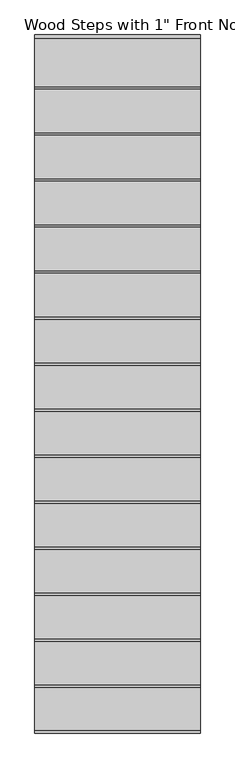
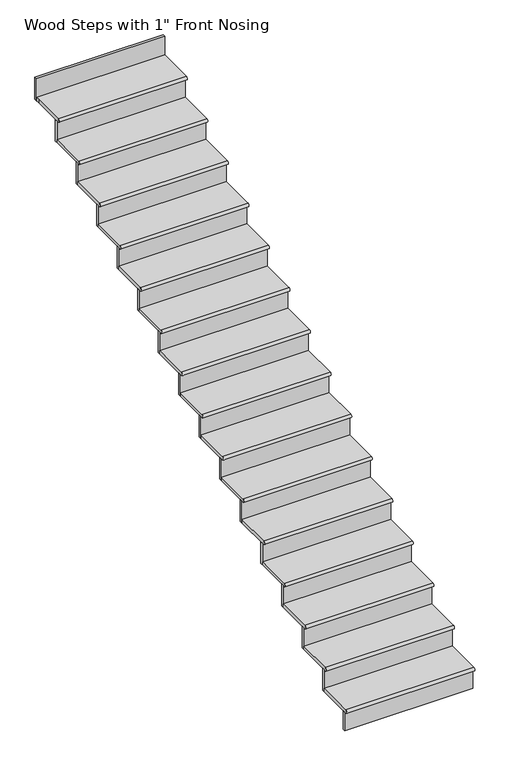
"""IFC4 building model written with IfcOpenShell, lengths in millimetres: stair flight geometry."""

from ifc_helpers import new_model, si_unit, frame, origin, place, context, project, spatial, circle_curve, faceted_brep, source, transform, mapped, element, save
from ifc_brep_helpers import plane_surface, cylinder_surface, advanced_brep


def stair_flight_320c33c6(model_context):
    return source(origin(), model_context, "Body", "SolidModel", [
        advanced_brep(
        [(-10208.7379486, -5487.6289462, -2648.346875), (-10208.7379486, -5487.6289462, -2622.946875), (-11123.1379486, -5487.6289462, -2622.946875), (-11123.1379486, -5487.6289462, -2648.346875), (-11123.1379486, -5220.9289462, -2622.946875), (-10208.7379486, -5220.9289462, -2622.946875), (-11123.1379486, -5220.9289462, -2648.346875), (-10208.7379486, -5220.9289462, -2648.346875)],
        [
            (0, 1, circle_curve(frame((-10208.7379486, -5487.6289462, -2635.646875), z_axis=(-1.0, 0.0, 0.0), x_axis=(0.0, 1.0, 0.0)), 12.7)),
            (1, 2),
            (2, 3, circle_curve(frame((-11123.1379486, -5487.6289462, -2635.646875), z_axis=(1.0, 0.0, 0.0), x_axis=(0.0, 1.0, 0.0)), 12.7)),
            (3, 0),
            (4, 2),
            (1, 5),
            (5, 4),
            (3, 6),
            (6, 7),
            (7, 0),
            (4, 6),
            (7, 5),
        ],
        [
            cylinder_surface(frame((-10208.7379486, -5487.6289462, -2635.646875), z_axis=(1.0, 0.0, 0.0), x_axis=(0.0, 1.0, 0.0)), 12.7),
            plane_surface(frame((-11123.1379486, -5500.3289462, -2622.946875), z_axis=(0.0, 0.0, 1.0), x_axis=(0.0, -1.0, 0.0))),
            plane_surface(frame((-11123.1379486, -5500.3289462, -2648.346875), z_axis=(0.0, 0.0, -1.0), x_axis=(0.0, 1.0, 0.0))),
            plane_surface(frame((-11123.1379486, -5220.9289462, -2622.946875), z_axis=(-1.0, 0.0, 0.0), x_axis=(0.0, 0.0, -1.0))),
            plane_surface(frame((-10208.7379486, -5487.6289462, -2622.946875), z_axis=(1.0, 0.0, 0.0), x_axis=(0.0, 0.0, -1.0))),
            plane_surface(frame((-10208.7379486, -5220.9289462, -2622.946875), z_axis=(0.0, 1.0, 0.0), x_axis=(0.0, 0.0, -1.0))),
        ],
        [
            (0, [[1, 2, 3, 4]]),
            (1, [[5, -2, 6, 7]]),
            (2, [[8, 9, 10, -4]]),
            (3, [[-5, 11, -8, -3]]),
            (4, [[-6, -1, -10, 12]]),
            (5, [[-7, -12, -9, -11]]),
        ],
    ),
        faceted_brep([(-10208.7379486, -5474.9289462, -2648.346875), (-10208.7379486, -5474.9289462, -2787.65), (-10208.7379486, -5455.8789462, -2787.65), (-10208.7379486, -5455.8789462, -2648.346875), (-11123.1379486, -5474.9289462, -2648.346875), (-11123.1379486, -5455.8789462, -2648.346875), (-11123.1379486, -5455.8789462, -2787.65), (-11123.1379486, -5474.9289462, -2787.65)], [[[0, 1, 2, 3]], [[4, 5, 6, 7]], [[1, 0, 4, 7]], [[2, 1, 7, 6]], [[3, 2, 6, 5]], [[0, 3, 5, 4]]]),
        faceted_brep([(-10208.7379486, -5220.9289462, -2483.64375), (-10208.7379486, -5220.9289462, -2648.346875), (-10208.7379486, -5201.8789462, -2648.346875), (-10208.7379486, -5201.8789462, -2483.64375), (-11123.1379486, -5220.9289462, -2483.64375), (-11123.1379486, -5201.8789462, -2483.64375), (-11123.1379486, -5201.8789462, -2648.346875), (-11123.1379486, -5220.9289462, -2648.346875)], [[[0, 1, 2, 3]], [[4, 5, 6, 7]], [[1, 0, 4, 7]], [[2, 1, 7, 6]], [[3, 2, 6, 5]], [[0, 3, 5, 4]]]),
        advanced_brep(
        [(-11123.1379486, -4966.9289462, -2458.24375), (-11123.1379486, -5233.6289462, -2458.24375), (-10208.7379486, -5233.6289462, -2458.24375), (-10208.7379486, -4966.9289462, -2458.24375), (-11123.1379486, -5233.6289462, -2483.64375), (-11123.1379486, -4966.9289462, -2483.64375), (-10208.7379486, -4966.9289462, -2483.64375), (-10208.7379486, -5233.6289462, -2483.64375)],
        [
            (0, 1),
            (1, 2),
            (2, 3),
            (3, 0),
            (4, 5),
            (5, 6),
            (6, 7),
            (7, 4),
            (0, 5),
            (4, 1, circle_curve(frame((-11123.1379486, -5233.6289462, -2470.94375), z_axis=(-1.0, 0.0, 0.0), x_axis=(0.0, 1.0, 0.0)), 12.7)),
            (2, 7, circle_curve(frame((-10208.7379486, -5233.6289462, -2470.94375), z_axis=(1.0, 0.0, 0.0), x_axis=(0.0, 1.0, 0.0)), 12.7)),
            (6, 3),
        ],
        [
            plane_surface(frame((-11123.1379486, -5500.3289462, -2458.24375), z_axis=(0.0, 0.0, 1.0), x_axis=(0.0, -1.0, 0.0))),
            plane_surface(frame((-11123.1379486, -5500.3289462, -2483.64375), z_axis=(0.0, 0.0, -1.0), x_axis=(0.0, 1.0, 0.0))),
            plane_surface(frame((-11123.1379486, -4966.9289462, -2458.24375), z_axis=(-1.0, 0.0, 0.0), x_axis=(0.0, 0.0, -1.0))),
            plane_surface(frame((-10208.7379486, -5233.6289462, -2458.24375), z_axis=(1.0, 0.0, 0.0), x_axis=(0.0, 0.0, -1.0))),
            plane_surface(frame((-10208.7379486, -4966.9289462, -2458.24375), z_axis=(0.0, 1.0, 0.0), x_axis=(0.0, 0.0, -1.0))),
            cylinder_surface(frame((-10208.7379486, -5233.6289462, -2470.94375), z_axis=(1.0, 0.0, 0.0), x_axis=(0.0, 1.0, 0.0)), 12.7),
        ],
        [
            (0, [[1, 2, 3, 4]]),
            (1, [[5, 6, 7, 8]]),
            (2, [[-1, 9, -5, 10]]),
            (3, [[-3, 11, -7, 12]]),
            (4, [[-4, -12, -6, -9]]),
            (5, [[-11, -2, -10, -8]]),
        ],
    ),
        faceted_brep([(-10208.7379486, -4966.9289462, -2318.940625), (-10208.7379486, -4966.9289462, -2483.64375), (-10208.7379486, -4947.8789462, -2483.64375), (-10208.7379486, -4947.8789462, -2318.940625), (-11123.1379486, -4966.9289462, -2318.940625), (-11123.1379486, -4947.8789462, -2318.940625), (-11123.1379486, -4947.8789462, -2483.64375), (-11123.1379486, -4966.9289462, -2483.64375)], [[[0, 1, 2, 3]], [[4, 5, 6, 7]], [[1, 0, 4, 7]], [[2, 1, 7, 6]], [[3, 2, 6, 5]], [[0, 3, 5, 4]]]),
        advanced_brep(
        [(-11123.1379486, -4712.9289462, -2293.540625), (-11123.1379486, -4979.6289462, -2293.540625), (-10208.7379486, -4979.6289462, -2293.540625), (-10208.7379486, -4712.9289462, -2293.540625), (-11123.1379486, -4979.6289462, -2318.940625), (-11123.1379486, -4712.9289462, -2318.940625), (-10208.7379486, -4712.9289462, -2318.940625), (-10208.7379486, -4979.6289462, -2318.940625)],
        [
            (0, 1),
            (1, 2),
            (2, 3),
            (3, 0),
            (4, 5),
            (5, 6),
            (6, 7),
            (7, 4),
            (0, 5),
            (4, 1, circle_curve(frame((-11123.1379486, -4979.6289462, -2306.240625), z_axis=(-1.0, 0.0, 0.0), x_axis=(0.0, 1.0, 0.0)), 12.7)),
            (2, 7, circle_curve(frame((-10208.7379486, -4979.6289462, -2306.240625), z_axis=(1.0, 0.0, 0.0), x_axis=(0.0, 1.0, 0.0)), 12.7)),
            (6, 3),
        ],
        [
            plane_surface(frame((-11123.1379486, -5246.3289462, -2293.540625), z_axis=(0.0, 0.0, 1.0), x_axis=(0.0, -1.0, 0.0))),
            plane_surface(frame((-11123.1379486, -5246.3289462, -2318.940625), z_axis=(0.0, 0.0, -1.0), x_axis=(0.0, 1.0, 0.0))),
            plane_surface(frame((-11123.1379486, -4712.9289462, -2293.540625), z_axis=(-1.0, 0.0, 0.0), x_axis=(0.0, 0.0, -1.0))),
            plane_surface(frame((-10208.7379486, -4979.6289462, -2293.540625), z_axis=(1.0, 0.0, 0.0), x_axis=(0.0, 0.0, -1.0))),
            plane_surface(frame((-10208.7379486, -4712.9289462, -2293.540625), z_axis=(0.0, 1.0, 0.0), x_axis=(0.0, 0.0, -1.0))),
            cylinder_surface(frame((-10208.7379486, -4979.6289462, -2306.240625), z_axis=(1.0, 0.0, 0.0), x_axis=(0.0, 1.0, 0.0)), 12.7),
        ],
        [
            (0, [[1, 2, 3, 4]]),
            (1, [[5, 6, 7, 8]]),
            (2, [[-1, 9, -5, 10]]),
            (3, [[-3, 11, -7, 12]]),
            (4, [[-4, -12, -6, -9]]),
            (5, [[-11, -2, -10, -8]]),
        ],
    ),
        faceted_brep([(-10208.7379486, -4712.9289462, -2154.2375), (-10208.7379486, -4712.9289462, -2318.940625), (-10208.7379486, -4693.8789462, -2318.940625), (-10208.7379486, -4693.8789462, -2154.2375), (-11123.1379486, -4712.9289462, -2154.2375), (-11123.1379486, -4693.8789462, -2154.2375), (-11123.1379486, -4693.8789462, -2318.940625), (-11123.1379486, -4712.9289462, -2318.940625)], [[[0, 1, 2, 3]], [[4, 5, 6, 7]], [[1, 0, 4, 7]], [[2, 1, 7, 6]], [[3, 2, 6, 5]], [[0, 3, 5, 4]]]),
        advanced_brep(
        [(-11123.1379486, -4458.9289462, -2128.8375), (-11123.1379486, -4725.6289462, -2128.8375), (-10208.7379486, -4725.6289462, -2128.8375), (-10208.7379486, -4458.9289462, -2128.8375), (-11123.1379486, -4725.6289462, -2154.2375), (-11123.1379486, -4458.9289462, -2154.2375), (-10208.7379486, -4458.9289462, -2154.2375), (-10208.7379486, -4725.6289462, -2154.2375)],
        [
            (0, 1),
            (1, 2),
            (2, 3),
            (3, 0),
            (4, 5),
            (5, 6),
            (6, 7),
            (7, 4),
            (0, 5),
            (4, 1, circle_curve(frame((-11123.1379486, -4725.6289462, -2141.5375), z_axis=(-1.0, 0.0, 0.0), x_axis=(0.0, 1.0, 0.0)), 12.7)),
            (2, 7, circle_curve(frame((-10208.7379486, -4725.6289462, -2141.5375), z_axis=(1.0, 0.0, 0.0), x_axis=(0.0, 1.0, 0.0)), 12.7)),
            (6, 3),
        ],
        [
            plane_surface(frame((-11123.1379486, -4992.3289462, -2128.8375), z_axis=(0.0, 0.0, 1.0), x_axis=(0.0, -1.0, 0.0))),
            plane_surface(frame((-11123.1379486, -4992.3289462, -2154.2375), z_axis=(0.0, 0.0, -1.0), x_axis=(0.0, 1.0, 0.0))),
            plane_surface(frame((-11123.1379486, -4458.9289462, -2128.8375), z_axis=(-1.0, 0.0, 0.0), x_axis=(0.0, 0.0, -1.0))),
            plane_surface(frame((-10208.7379486, -4725.6289462, -2128.8375), z_axis=(1.0, 0.0, 0.0), x_axis=(0.0, 0.0, -1.0))),
            plane_surface(frame((-10208.7379486, -4458.9289462, -2128.8375), z_axis=(0.0, 1.0, 0.0), x_axis=(0.0, 0.0, -1.0))),
            cylinder_surface(frame((-10208.7379486, -4725.6289462, -2141.5375), z_axis=(1.0, 0.0, 0.0), x_axis=(0.0, 1.0, 0.0)), 12.7),
        ],
        [
            (0, [[1, 2, 3, 4]]),
            (1, [[5, 6, 7, 8]]),
            (2, [[-1, 9, -5, 10]]),
            (3, [[-3, 11, -7, 12]]),
            (4, [[-4, -12, -6, -9]]),
            (5, [[-11, -2, -10, -8]]),
        ],
    ),
        faceted_brep([(-10208.7379486, -4458.9289462, -1989.534375), (-10208.7379486, -4458.9289462, -2154.2375), (-10208.7379486, -4439.8789462, -2154.2375), (-10208.7379486, -4439.8789462, -1989.534375), (-11123.1379486, -4458.9289462, -1989.534375), (-11123.1379486, -4439.8789462, -1989.534375), (-11123.1379486, -4439.8789462, -2154.2375), (-11123.1379486, -4458.9289462, -2154.2375)], [[[0, 1, 2, 3]], [[4, 5, 6, 7]], [[1, 0, 4, 7]], [[2, 1, 7, 6]], [[3, 2, 6, 5]], [[0, 3, 5, 4]]]),
        advanced_brep(
        [(-11123.1379486, -4204.9289462, -1964.134375), (-11123.1379486, -4471.6289462, -1964.134375), (-10208.7379486, -4471.6289462, -1964.134375), (-10208.7379486, -4204.9289462, -1964.134375), (-11123.1379486, -4471.6289462, -1989.534375), (-11123.1379486, -4204.9289462, -1989.534375), (-10208.7379486, -4204.9289462, -1989.534375), (-10208.7379486, -4471.6289462, -1989.534375)],
        [
            (0, 1),
            (1, 2),
            (2, 3),
            (3, 0),
            (4, 5),
            (5, 6),
            (6, 7),
            (7, 4),
            (0, 5),
            (4, 1, circle_curve(frame((-11123.1379486, -4471.6289462, -1976.834375), z_axis=(-1.0, 0.0, 0.0), x_axis=(0.0, 1.0, 0.0)), 12.7)),
            (2, 7, circle_curve(frame((-10208.7379486, -4471.6289462, -1976.834375), z_axis=(1.0, 0.0, 0.0), x_axis=(0.0, 1.0, 0.0)), 12.7)),
            (6, 3),
        ],
        [
            plane_surface(frame((-11123.1379486, -4738.3289462, -1964.134375), z_axis=(0.0, 0.0, 1.0), x_axis=(0.0, -1.0, 0.0))),
            plane_surface(frame((-11123.1379486, -4738.3289462, -1989.534375), z_axis=(0.0, 0.0, -1.0), x_axis=(0.0, 1.0, 0.0))),
            plane_surface(frame((-11123.1379486, -4204.9289462, -1964.134375), z_axis=(-1.0, 0.0, 0.0), x_axis=(0.0, 0.0, -1.0))),
            plane_surface(frame((-10208.7379486, -4471.6289462, -1964.134375), z_axis=(1.0, 0.0, 0.0), x_axis=(0.0, 0.0, -1.0))),
            plane_surface(frame((-10208.7379486, -4204.9289462, -1964.134375), z_axis=(0.0, 1.0, 0.0), x_axis=(0.0, 0.0, -1.0))),
            cylinder_surface(frame((-10208.7379486, -4471.6289462, -1976.834375), z_axis=(1.0, 0.0, 0.0), x_axis=(0.0, 1.0, 0.0)), 12.7),
        ],
        [
            (0, [[1, 2, 3, 4]]),
            (1, [[5, 6, 7, 8]]),
            (2, [[-1, 9, -5, 10]]),
            (3, [[-3, 11, -7, 12]]),
            (4, [[-4, -12, -6, -9]]),
            (5, [[-11, -2, -10, -8]]),
        ],
    ),
        faceted_brep([(-10208.7379486, -4204.9289462, -1824.83125), (-10208.7379486, -4204.9289462, -1989.534375), (-10208.7379486, -4185.8789462, -1989.534375), (-10208.7379486, -4185.8789462, -1824.83125), (-11123.1379486, -4204.9289462, -1824.83125), (-11123.1379486, -4185.8789462, -1824.83125), (-11123.1379486, -4185.8789462, -1989.534375), (-11123.1379486, -4204.9289462, -1989.534375)], [[[0, 1, 2, 3]], [[4, 5, 6, 7]], [[1, 0, 4, 7]], [[2, 1, 7, 6]], [[3, 2, 6, 5]], [[0, 3, 5, 4]]]),
        advanced_brep(
        [(-11123.1379486, -3950.9289462, -1799.43125), (-11123.1379486, -4217.6289462, -1799.43125), (-10208.7379486, -4217.6289462, -1799.43125), (-10208.7379486, -3950.9289462, -1799.43125), (-11123.1379486, -4217.6289462, -1824.83125), (-11123.1379486, -3950.9289462, -1824.83125), (-10208.7379486, -3950.9289462, -1824.83125), (-10208.7379486, -4217.6289462, -1824.83125)],
        [
            (0, 1),
            (1, 2),
            (2, 3),
            (3, 0),
            (4, 5),
            (5, 6),
            (6, 7),
            (7, 4),
            (0, 5),
            (4, 1, circle_curve(frame((-11123.1379486, -4217.6289462, -1812.13125), z_axis=(-1.0, 0.0, 0.0), x_axis=(0.0, 1.0, 0.0)), 12.7)),
            (2, 7, circle_curve(frame((-10208.7379486, -4217.6289462, -1812.13125), z_axis=(1.0, 0.0, 0.0), x_axis=(0.0, 1.0, 0.0)), 12.7)),
            (6, 3),
        ],
        [
            plane_surface(frame((-11123.1379486, -4484.3289462, -1799.43125), z_axis=(0.0, 0.0, 1.0), x_axis=(0.0, -1.0, 0.0))),
            plane_surface(frame((-11123.1379486, -4484.3289462, -1824.83125), z_axis=(0.0, 0.0, -1.0), x_axis=(0.0, 1.0, 0.0))),
            plane_surface(frame((-11123.1379486, -3950.9289462, -1799.43125), z_axis=(-1.0, 0.0, 0.0), x_axis=(0.0, 0.0, -1.0))),
            plane_surface(frame((-10208.7379486, -4217.6289462, -1799.43125), z_axis=(1.0, 0.0, 0.0), x_axis=(0.0, 0.0, -1.0))),
            plane_surface(frame((-10208.7379486, -3950.9289462, -1799.43125), z_axis=(0.0, 1.0, 0.0), x_axis=(0.0, 0.0, -1.0))),
            cylinder_surface(frame((-10208.7379486, -4217.6289462, -1812.13125), z_axis=(1.0, 0.0, 0.0), x_axis=(0.0, 1.0, 0.0)), 12.7),
        ],
        [
            (0, [[1, 2, 3, 4]]),
            (1, [[5, 6, 7, 8]]),
            (2, [[-1, 9, -5, 10]]),
            (3, [[-3, 11, -7, 12]]),
            (4, [[-4, -12, -6, -9]]),
            (5, [[-11, -2, -10, -8]]),
        ],
    ),
        faceted_brep([(-10208.7379486, -3950.9289462, -1660.128125), (-10208.7379486, -3950.9289462, -1824.83125), (-10208.7379486, -3931.8789462, -1824.83125), (-10208.7379486, -3931.8789462, -1660.128125), (-11123.1379486, -3950.9289462, -1660.128125), (-11123.1379486, -3931.8789462, -1660.128125), (-11123.1379486, -3931.8789462, -1824.83125), (-11123.1379486, -3950.9289462, -1824.83125)], [[[0, 1, 2, 3]], [[4, 5, 6, 7]], [[1, 0, 4, 7]], [[2, 1, 7, 6]], [[3, 2, 6, 5]], [[0, 3, 5, 4]]]),
        advanced_brep(
        [(-11123.1379486, -3696.9289462, -1634.728125), (-11123.1379486, -3963.6289462, -1634.728125), (-10208.7379486, -3963.6289462, -1634.728125), (-10208.7379486, -3696.9289462, -1634.728125), (-11123.1379486, -3963.6289462, -1660.128125), (-11123.1379486, -3696.9289462, -1660.128125), (-10208.7379486, -3696.9289462, -1660.128125), (-10208.7379486, -3963.6289462, -1660.128125)],
        [
            (0, 1),
            (1, 2),
            (2, 3),
            (3, 0),
            (4, 5),
            (5, 6),
            (6, 7),
            (7, 4),
            (0, 5),
            (4, 1, circle_curve(frame((-11123.1379486, -3963.6289462, -1647.428125), z_axis=(-1.0, 0.0, 0.0), x_axis=(0.0, 1.0, 0.0)), 12.7)),
            (2, 7, circle_curve(frame((-10208.7379486, -3963.6289462, -1647.428125), z_axis=(1.0, 0.0, 0.0), x_axis=(0.0, 1.0, 0.0)), 12.7)),
            (6, 3),
        ],
        [
            plane_surface(frame((-11123.1379486, -4230.3289462, -1634.728125), z_axis=(0.0, 0.0, 1.0), x_axis=(0.0, -1.0, 0.0))),
            plane_surface(frame((-11123.1379486, -4230.3289462, -1660.128125), z_axis=(0.0, 0.0, -1.0), x_axis=(0.0, 1.0, 0.0))),
            plane_surface(frame((-11123.1379486, -3696.9289462, -1634.728125), z_axis=(-1.0, 0.0, 0.0), x_axis=(0.0, 0.0, -1.0))),
            plane_surface(frame((-10208.7379486, -3963.6289462, -1634.728125), z_axis=(1.0, 0.0, 0.0), x_axis=(0.0, 0.0, -1.0))),
            plane_surface(frame((-10208.7379486, -3696.9289462, -1634.728125), z_axis=(0.0, 1.0, 0.0), x_axis=(0.0, 0.0, -1.0))),
            cylinder_surface(frame((-10208.7379486, -3963.6289462, -1647.428125), z_axis=(1.0, 0.0, 0.0), x_axis=(0.0, 1.0, 0.0)), 12.7),
        ],
        [
            (0, [[1, 2, 3, 4]]),
            (1, [[5, 6, 7, 8]]),
            (2, [[-1, 9, -5, 10]]),
            (3, [[-3, 11, -7, 12]]),
            (4, [[-4, -12, -6, -9]]),
            (5, [[-11, -2, -10, -8]]),
        ],
    ),
        faceted_brep([(-10208.7379486, -3696.9289462, -1495.425), (-10208.7379486, -3696.9289462, -1660.128125), (-10208.7379486, -3677.8789462, -1660.128125), (-10208.7379486, -3677.8789462, -1495.425), (-11123.1379486, -3696.9289462, -1495.425), (-11123.1379486, -3677.8789462, -1495.425), (-11123.1379486, -3677.8789462, -1660.128125), (-11123.1379486, -3696.9289462, -1660.128125)], [[[0, 1, 2, 3]], [[4, 5, 6, 7]], [[1, 0, 4, 7]], [[2, 1, 7, 6]], [[3, 2, 6, 5]], [[0, 3, 5, 4]]]),
        advanced_brep(
        [(-11123.1379486, -3442.9289462, -1470.025), (-11123.1379486, -3709.6289462, -1470.025), (-10208.7379486, -3709.6289462, -1470.025), (-10208.7379486, -3442.9289462, -1470.025), (-11123.1379486, -3709.6289462, -1495.425), (-11123.1379486, -3442.9289462, -1495.425), (-10208.7379486, -3442.9289462, -1495.425), (-10208.7379486, -3709.6289462, -1495.425)],
        [
            (0, 1),
            (1, 2),
            (2, 3),
            (3, 0),
            (4, 5),
            (5, 6),
            (6, 7),
            (7, 4),
            (0, 5),
            (4, 1, circle_curve(frame((-11123.1379486, -3709.6289462, -1482.725), z_axis=(-1.0, 0.0, 0.0), x_axis=(0.0, 1.0, 0.0)), 12.7)),
            (2, 7, circle_curve(frame((-10208.7379486, -3709.6289462, -1482.725), z_axis=(1.0, 0.0, 0.0), x_axis=(0.0, 1.0, 0.0)), 12.7)),
            (6, 3),
        ],
        [
            plane_surface(frame((-11123.1379486, -3976.3289462, -1470.025), z_axis=(0.0, 0.0, 1.0), x_axis=(0.0, -1.0, 0.0))),
            plane_surface(frame((-11123.1379486, -3976.3289462, -1495.425), z_axis=(0.0, 0.0, -1.0), x_axis=(0.0, 1.0, 0.0))),
            plane_surface(frame((-11123.1379486, -3442.9289462, -1470.025), z_axis=(-1.0, 0.0, 0.0), x_axis=(0.0, 0.0, -1.0))),
            plane_surface(frame((-10208.7379486, -3709.6289462, -1470.025), z_axis=(1.0, 0.0, 0.0), x_axis=(0.0, 0.0, -1.0))),
            plane_surface(frame((-10208.7379486, -3442.9289462, -1470.025), z_axis=(0.0, 1.0, 0.0), x_axis=(0.0, 0.0, -1.0))),
            cylinder_surface(frame((-10208.7379486, -3709.6289462, -1482.725), z_axis=(1.0, 0.0, 0.0), x_axis=(0.0, 1.0, 0.0)), 12.7),
        ],
        [
            (0, [[1, 2, 3, 4]]),
            (1, [[5, 6, 7, 8]]),
            (2, [[-1, 9, -5, 10]]),
            (3, [[-3, 11, -7, 12]]),
            (4, [[-4, -12, -6, -9]]),
            (5, [[-11, -2, -10, -8]]),
        ],
    ),
        faceted_brep([(-10208.7379486, -3442.9289462, -1330.721875), (-10208.7379486, -3442.9289462, -1495.425), (-10208.7379486, -3423.8789462, -1495.425), (-10208.7379486, -3423.8789462, -1330.721875), (-11123.1379486, -3442.9289462, -1330.721875), (-11123.1379486, -3423.8789462, -1330.721875), (-11123.1379486, -3423.8789462, -1495.425), (-11123.1379486, -3442.9289462, -1495.425)], [[[0, 1, 2, 3]], [[4, 5, 6, 7]], [[1, 0, 4, 7]], [[2, 1, 7, 6]], [[3, 2, 6, 5]], [[0, 3, 5, 4]]]),
        advanced_brep(
        [(-11123.1379486, -3188.9289462, -1305.321875), (-11123.1379486, -3455.6289462, -1305.321875), (-10208.7379486, -3455.6289462, -1305.321875), (-10208.7379486, -3188.9289462, -1305.321875), (-11123.1379486, -3455.6289462, -1330.721875), (-11123.1379486, -3188.9289462, -1330.721875), (-10208.7379486, -3188.9289462, -1330.721875), (-10208.7379486, -3455.6289462, -1330.721875)],
        [
            (0, 1),
            (1, 2),
            (2, 3),
            (3, 0),
            (4, 5),
            (5, 6),
            (6, 7),
            (7, 4),
            (0, 5),
            (4, 1, circle_curve(frame((-11123.1379486, -3455.6289462, -1318.021875), z_axis=(-1.0, 0.0, 0.0), x_axis=(0.0, 1.0, 0.0)), 12.7)),
            (2, 7, circle_curve(frame((-10208.7379486, -3455.6289462, -1318.021875), z_axis=(1.0, 0.0, 0.0), x_axis=(0.0, 1.0, 0.0)), 12.7)),
            (6, 3),
        ],
        [
            plane_surface(frame((-11123.1379486, -3722.3289462, -1305.321875), z_axis=(0.0, 0.0, 1.0), x_axis=(0.0, -1.0, 0.0))),
            plane_surface(frame((-11123.1379486, -3722.3289462, -1330.721875), z_axis=(0.0, 0.0, -1.0), x_axis=(0.0, 1.0, 0.0))),
            plane_surface(frame((-11123.1379486, -3188.9289462, -1305.321875), z_axis=(-1.0, 0.0, 0.0), x_axis=(0.0, 0.0, -1.0))),
            plane_surface(frame((-10208.7379486, -3455.6289462, -1305.321875), z_axis=(1.0, 0.0, 0.0), x_axis=(0.0, 0.0, -1.0))),
            plane_surface(frame((-10208.7379486, -3188.9289462, -1305.321875), z_axis=(0.0, 1.0, 0.0), x_axis=(0.0, 0.0, -1.0))),
            cylinder_surface(frame((-10208.7379486, -3455.6289462, -1318.021875), z_axis=(1.0, 0.0, 0.0), x_axis=(0.0, 1.0, 0.0)), 12.7),
        ],
        [
            (0, [[1, 2, 3, 4]]),
            (1, [[5, 6, 7, 8]]),
            (2, [[-1, 9, -5, 10]]),
            (3, [[-3, 11, -7, 12]]),
            (4, [[-4, -12, -6, -9]]),
            (5, [[-11, -2, -10, -8]]),
        ],
    ),
        faceted_brep([(-10208.7379486, -3188.9289462, -1166.01875), (-10208.7379486, -3188.9289462, -1330.721875), (-10208.7379486, -3169.8789462, -1330.721875), (-10208.7379486, -3169.8789462, -1166.01875), (-11123.1379486, -3188.9289462, -1166.01875), (-11123.1379486, -3169.8789462, -1166.01875), (-11123.1379486, -3169.8789462, -1330.721875), (-11123.1379486, -3188.9289462, -1330.721875)], [[[0, 1, 2, 3]], [[4, 5, 6, 7]], [[1, 0, 4, 7]], [[2, 1, 7, 6]], [[3, 2, 6, 5]], [[0, 3, 5, 4]]]),
        advanced_brep(
        [(-11123.1379486, -2934.9289462, -1140.61875), (-11123.1379486, -3201.6289462, -1140.61875), (-10208.7379486, -3201.6289462, -1140.61875), (-10208.7379486, -2934.9289462, -1140.61875), (-11123.1379486, -3201.6289462, -1166.01875), (-11123.1379486, -2934.9289462, -1166.01875), (-10208.7379486, -2934.9289462, -1166.01875), (-10208.7379486, -3201.6289462, -1166.01875)],
        [
            (0, 1),
            (1, 2),
            (2, 3),
            (3, 0),
            (4, 5),
            (5, 6),
            (6, 7),
            (7, 4),
            (0, 5),
            (4, 1, circle_curve(frame((-11123.1379486, -3201.6289462, -1153.31875), z_axis=(-1.0, 0.0, 0.0), x_axis=(0.0, 1.0, 0.0)), 12.7)),
            (2, 7, circle_curve(frame((-10208.7379486, -3201.6289462, -1153.31875), z_axis=(1.0, 0.0, 0.0), x_axis=(0.0, 1.0, 0.0)), 12.7)),
            (6, 3),
        ],
        [
            plane_surface(frame((-11123.1379486, -3468.3289462, -1140.61875), z_axis=(0.0, 0.0, 1.0), x_axis=(0.0, -1.0, 0.0))),
            plane_surface(frame((-11123.1379486, -3468.3289462, -1166.01875), z_axis=(0.0, 0.0, -1.0), x_axis=(0.0, 1.0, 0.0))),
            plane_surface(frame((-11123.1379486, -2934.9289462, -1140.61875), z_axis=(-1.0, 0.0, 0.0), x_axis=(0.0, 0.0, -1.0))),
            plane_surface(frame((-10208.7379486, -3201.6289462, -1140.61875), z_axis=(1.0, 0.0, 0.0), x_axis=(0.0, 0.0, -1.0))),
            plane_surface(frame((-10208.7379486, -2934.9289462, -1140.61875), z_axis=(0.0, 1.0, 0.0), x_axis=(0.0, 0.0, -1.0))),
            cylinder_surface(frame((-10208.7379486, -3201.6289462, -1153.31875), z_axis=(1.0, 0.0, 0.0), x_axis=(0.0, 1.0, 0.0)), 12.7),
        ],
        [
            (0, [[1, 2, 3, 4]]),
            (1, [[5, 6, 7, 8]]),
            (2, [[-1, 9, -5, 10]]),
            (3, [[-3, 11, -7, 12]]),
            (4, [[-4, -12, -6, -9]]),
            (5, [[-11, -2, -10, -8]]),
        ],
    ),
        faceted_brep([(-10208.7379486, -2934.9289462, -1001.315625), (-10208.7379486, -2934.9289462, -1166.01875), (-10208.7379486, -2915.8789462, -1166.01875), (-10208.7379486, -2915.8789462, -1001.315625), (-11123.1379486, -2934.9289462, -1001.315625), (-11123.1379486, -2915.8789462, -1001.315625), (-11123.1379486, -2915.8789462, -1166.01875), (-11123.1379486, -2934.9289462, -1166.01875)], [[[0, 1, 2, 3]], [[4, 5, 6, 7]], [[1, 0, 4, 7]], [[2, 1, 7, 6]], [[3, 2, 6, 5]], [[0, 3, 5, 4]]]),
        advanced_brep(
        [(-11123.1379486, -2680.9289462, -975.915625), (-11123.1379486, -2947.6289462, -975.915625), (-10208.7379486, -2947.6289462, -975.915625), (-10208.7379486, -2680.9289462, -975.915625), (-11123.1379486, -2947.6289462, -1001.315625), (-11123.1379486, -2680.9289462, -1001.315625), (-10208.7379486, -2680.9289462, -1001.315625), (-10208.7379486, -2947.6289462, -1001.315625)],
        [
            (0, 1),
            (1, 2),
            (2, 3),
            (3, 0),
            (4, 5),
            (5, 6),
            (6, 7),
            (7, 4),
            (0, 5),
            (4, 1, circle_curve(frame((-11123.1379486, -2947.6289462, -988.615625), z_axis=(-1.0, 0.0, 0.0), x_axis=(0.0, 1.0, 0.0)), 12.7)),
            (2, 7, circle_curve(frame((-10208.7379486, -2947.6289462, -988.615625), z_axis=(1.0, 0.0, 0.0), x_axis=(0.0, 1.0, 0.0)), 12.7)),
            (6, 3),
        ],
        [
            plane_surface(frame((-11123.1379486, -3214.3289462, -975.915625), z_axis=(0.0, 0.0, 1.0), x_axis=(0.0, -1.0, 0.0))),
            plane_surface(frame((-11123.1379486, -3214.3289462, -1001.315625), z_axis=(0.0, 0.0, -1.0), x_axis=(0.0, 1.0, 0.0))),
            plane_surface(frame((-11123.1379486, -2680.9289462, -975.915625), z_axis=(-1.0, 0.0, 0.0), x_axis=(0.0, 0.0, -1.0))),
            plane_surface(frame((-10208.7379486, -2947.6289462, -975.915625), z_axis=(1.0, 0.0, 0.0), x_axis=(0.0, 0.0, -1.0))),
            plane_surface(frame((-10208.7379486, -2680.9289462, -975.915625), z_axis=(0.0, 1.0, 0.0), x_axis=(0.0, 0.0, -1.0))),
            cylinder_surface(frame((-10208.7379486, -2947.6289462, -988.615625), z_axis=(1.0, 0.0, 0.0), x_axis=(0.0, 1.0, 0.0)), 12.7),
        ],
        [
            (0, [[1, 2, 3, 4]]),
            (1, [[5, 6, 7, 8]]),
            (2, [[-1, 9, -5, 10]]),
            (3, [[-3, 11, -7, 12]]),
            (4, [[-4, -12, -6, -9]]),
            (5, [[-11, -2, -10, -8]]),
        ],
    ),
        faceted_brep([(-10208.7379486, -2680.9289462, -836.6125), (-10208.7379486, -2680.9289462, -1001.315625), (-10208.7379486, -2661.8789462, -1001.315625), (-10208.7379486, -2661.8789462, -836.6125), (-11123.1379486, -2680.9289462, -836.6125), (-11123.1379486, -2661.8789462, -836.6125), (-11123.1379486, -2661.8789462, -1001.315625), (-11123.1379486, -2680.9289462, -1001.315625)], [[[0, 1, 2, 3]], [[4, 5, 6, 7]], [[1, 0, 4, 7]], [[2, 1, 7, 6]], [[3, 2, 6, 5]], [[0, 3, 5, 4]]]),
        advanced_brep(
        [(-11123.1379486, -2426.9289462, -811.2125), (-11123.1379486, -2693.6289462, -811.2125), (-10208.7379486, -2693.6289462, -811.2125), (-10208.7379486, -2426.9289462, -811.2125), (-11123.1379486, -2693.6289462, -836.6125), (-11123.1379486, -2426.9289462, -836.6125), (-10208.7379486, -2426.9289462, -836.6125), (-10208.7379486, -2693.6289462, -836.6125)],
        [
            (0, 1),
            (1, 2),
            (2, 3),
            (3, 0),
            (4, 5),
            (5, 6),
            (6, 7),
            (7, 4),
            (0, 5),
            (4, 1, circle_curve(frame((-11123.1379486, -2693.6289462, -823.9125), z_axis=(-1.0, 0.0, 0.0), x_axis=(0.0, 1.0, 0.0)), 12.7)),
            (2, 7, circle_curve(frame((-10208.7379486, -2693.6289462, -823.9125), z_axis=(1.0, 0.0, 0.0), x_axis=(0.0, 1.0, 0.0)), 12.7)),
            (6, 3),
        ],
        [
            plane_surface(frame((-11123.1379486, -2960.3289462, -811.2125), z_axis=(0.0, 0.0, 1.0), x_axis=(0.0, -1.0, 0.0))),
            plane_surface(frame((-11123.1379486, -2960.3289462, -836.6125), z_axis=(0.0, 0.0, -1.0), x_axis=(0.0, 1.0, 0.0))),
            plane_surface(frame((-11123.1379486, -2426.9289462, -811.2125), z_axis=(-1.0, 0.0, 0.0), x_axis=(0.0, 0.0, -1.0))),
            plane_surface(frame((-10208.7379486, -2693.6289462, -811.2125), z_axis=(1.0, 0.0, 0.0), x_axis=(0.0, 0.0, -1.0))),
            plane_surface(frame((-10208.7379486, -2426.9289462, -811.2125), z_axis=(0.0, 1.0, 0.0), x_axis=(0.0, 0.0, -1.0))),
            cylinder_surface(frame((-10208.7379486, -2693.6289462, -823.9125), z_axis=(1.0, 0.0, 0.0), x_axis=(0.0, 1.0, 0.0)), 12.7),
        ],
        [
            (0, [[1, 2, 3, 4]]),
            (1, [[5, 6, 7, 8]]),
            (2, [[-1, 9, -5, 10]]),
            (3, [[-3, 11, -7, 12]]),
            (4, [[-4, -12, -6, -9]]),
            (5, [[-11, -2, -10, -8]]),
        ],
    ),
        faceted_brep([(-10208.7379486, -2426.9289462, -671.909375), (-10208.7379486, -2426.9289462, -836.6125), (-10208.7379486, -2407.8789462, -836.6125), (-10208.7379486, -2407.8789462, -671.909375), (-11123.1379486, -2426.9289462, -671.909375), (-11123.1379486, -2407.8789462, -671.909375), (-11123.1379486, -2407.8789462, -836.6125), (-11123.1379486, -2426.9289462, -836.6125)], [[[0, 1, 2, 3]], [[4, 5, 6, 7]], [[1, 0, 4, 7]], [[2, 1, 7, 6]], [[3, 2, 6, 5]], [[0, 3, 5, 4]]]),
        advanced_brep(
        [(-11123.1379486, -2172.9289462, -646.509375), (-11123.1379486, -2439.6289462, -646.509375), (-10208.7379486, -2439.6289462, -646.509375), (-10208.7379486, -2172.9289462, -646.509375), (-11123.1379486, -2439.6289462, -671.909375), (-11123.1379486, -2172.9289462, -671.909375), (-10208.7379486, -2172.9289462, -671.909375), (-10208.7379486, -2439.6289462, -671.909375)],
        [
            (0, 1),
            (1, 2),
            (2, 3),
            (3, 0),
            (4, 5),
            (5, 6),
            (6, 7),
            (7, 4),
            (0, 5),
            (4, 1, circle_curve(frame((-11123.1379486, -2439.6289462, -659.209375), z_axis=(-1.0, 0.0, 0.0), x_axis=(0.0, 1.0, 0.0)), 12.7)),
            (2, 7, circle_curve(frame((-10208.7379486, -2439.6289462, -659.209375), z_axis=(1.0, 0.0, 0.0), x_axis=(0.0, 1.0, 0.0)), 12.7)),
            (6, 3),
        ],
        [
            plane_surface(frame((-11123.1379486, -2706.3289462, -646.509375), z_axis=(0.0, 0.0, 1.0), x_axis=(0.0, -1.0, 0.0))),
            plane_surface(frame((-11123.1379486, -2706.3289462, -671.909375), z_axis=(0.0, 0.0, -1.0), x_axis=(0.0, 1.0, 0.0))),
            plane_surface(frame((-11123.1379486, -2172.9289462, -646.509375), z_axis=(-1.0, 0.0, 0.0), x_axis=(0.0, 0.0, -1.0))),
            plane_surface(frame((-10208.7379486, -2439.6289462, -646.509375), z_axis=(1.0, 0.0, 0.0), x_axis=(0.0, 0.0, -1.0))),
            plane_surface(frame((-10208.7379486, -2172.9289462, -646.509375), z_axis=(0.0, 1.0, 0.0), x_axis=(0.0, 0.0, -1.0))),
            cylinder_surface(frame((-10208.7379486, -2439.6289462, -659.209375), z_axis=(1.0, 0.0, 0.0), x_axis=(0.0, 1.0, 0.0)), 12.7),
        ],
        [
            (0, [[1, 2, 3, 4]]),
            (1, [[5, 6, 7, 8]]),
            (2, [[-1, 9, -5, 10]]),
            (3, [[-3, 11, -7, 12]]),
            (4, [[-4, -12, -6, -9]]),
            (5, [[-11, -2, -10, -8]]),
        ],
    ),
        faceted_brep([(-10208.7379486, -2172.9289462, -507.20625), (-10208.7379486, -2172.9289462, -671.909375), (-10208.7379486, -2153.8789462, -671.909375), (-10208.7379486, -2153.8789462, -507.20625), (-11123.1379486, -2172.9289462, -507.20625), (-11123.1379486, -2153.8789462, -507.20625), (-11123.1379486, -2153.8789462, -671.909375), (-11123.1379486, -2172.9289462, -671.909375)], [[[0, 1, 2, 3]], [[4, 5, 6, 7]], [[1, 0, 4, 7]], [[2, 1, 7, 6]], [[3, 2, 6, 5]], [[0, 3, 5, 4]]]),
        advanced_brep(
        [(-11123.1379486, -1918.9289462, -481.80625), (-11123.1379486, -2185.6289462, -481.80625), (-10208.7379486, -2185.6289462, -481.80625), (-10208.7379486, -1918.9289462, -481.80625), (-11123.1379486, -2185.6289462, -507.20625), (-11123.1379486, -1918.9289462, -507.20625), (-10208.7379486, -1918.9289462, -507.20625), (-10208.7379486, -2185.6289462, -507.20625)],
        [
            (0, 1),
            (1, 2),
            (2, 3),
            (3, 0),
            (4, 5),
            (5, 6),
            (6, 7),
            (7, 4),
            (0, 5),
            (4, 1, circle_curve(frame((-11123.1379486, -2185.6289462, -494.50625), z_axis=(-1.0, 0.0, 0.0), x_axis=(0.0, 1.0, 0.0)), 12.7)),
            (2, 7, circle_curve(frame((-10208.7379486, -2185.6289462, -494.50625), z_axis=(1.0, 0.0, 0.0), x_axis=(0.0, 1.0, 0.0)), 12.7)),
            (6, 3),
        ],
        [
            plane_surface(frame((-11123.1379486, -2452.3289462, -481.80625), z_axis=(0.0, 0.0, 1.0), x_axis=(0.0, -1.0, 0.0))),
            plane_surface(frame((-11123.1379486, -2452.3289462, -507.20625), z_axis=(0.0, 0.0, -1.0), x_axis=(0.0, 1.0, 0.0))),
            plane_surface(frame((-11123.1379486, -1918.9289462, -481.80625), z_axis=(-1.0, 0.0, 0.0), x_axis=(0.0, 0.0, -1.0))),
            plane_surface(frame((-10208.7379486, -2185.6289462, -481.80625), z_axis=(1.0, 0.0, 0.0), x_axis=(0.0, 0.0, -1.0))),
            plane_surface(frame((-10208.7379486, -1918.9289462, -481.80625), z_axis=(0.0, 1.0, 0.0), x_axis=(0.0, 0.0, -1.0))),
            cylinder_surface(frame((-10208.7379486, -2185.6289462, -494.50625), z_axis=(1.0, 0.0, 0.0), x_axis=(0.0, 1.0, 0.0)), 12.7),
        ],
        [
            (0, [[1, 2, 3, 4]]),
            (1, [[5, 6, 7, 8]]),
            (2, [[-1, 9, -5, 10]]),
            (3, [[-3, 11, -7, 12]]),
            (4, [[-4, -12, -6, -9]]),
            (5, [[-11, -2, -10, -8]]),
        ],
    ),
        faceted_brep([(-10208.7379486, -1664.9289462, -177.8), (-10208.7379486, -1664.9289462, -342.503125), (-10208.7379486, -1645.8789462, -342.503125), (-10208.7379486, -1645.8789462, -177.8), (-11123.1379486, -1664.9289462, -177.8), (-11123.1379486, -1645.8789462, -177.8), (-11123.1379486, -1645.8789462, -342.503125), (-11123.1379486, -1664.9289462, -342.503125)], [[[0, 1, 2, 3]], [[4, 5, 6, 7]], [[1, 0, 4, 7]], [[2, 1, 7, 6]], [[3, 2, 6, 5]], [[0, 3, 5, 4]]]),
        faceted_brep([(-10208.7379486, -1918.9289462, -342.503125), (-10208.7379486, -1918.9289462, -507.20625), (-10208.7379486, -1899.8789462, -507.20625), (-10208.7379486, -1899.8789462, -342.503125), (-11123.1379486, -1918.9289462, -342.503125), (-11123.1379486, -1899.8789462, -342.503125), (-11123.1379486, -1899.8789462, -507.20625), (-11123.1379486, -1918.9289462, -507.20625)], [[[0, 1, 2, 3]], [[4, 5, 6, 7]], [[1, 0, 4, 7]], [[2, 1, 7, 6]], [[3, 2, 6, 5]], [[0, 3, 5, 4]]]),
        advanced_brep(
        [(-11123.1379486, -1664.9289462, -317.103125), (-11123.1379486, -1690.3289462, -317.103125), (-11123.1379486, -1931.6289462, -317.103125), (-10208.7379486, -1931.6289462, -317.103125), (-10208.7379486, -1690.3289462, -317.103125), (-10208.7379486, -1664.9289462, -317.103125), (-11123.1379486, -1690.3289462, -342.503125), (-11123.1379486, -1664.9289462, -342.503125), (-10208.7379486, -1664.9289462, -342.503125), (-10208.7379486, -1690.3289462, -342.503125), (-10208.7379486, -1931.6289462, -342.503125), (-11123.1379486, -1931.6289462, -342.503125)],
        [
            (0, 1),
            (1, 2),
            (2, 3),
            (3, 4),
            (4, 5),
            (5, 0),
            (6, 7),
            (7, 8),
            (8, 9),
            (9, 10),
            (10, 11),
            (11, 6),
            (0, 7),
            (6, 1),
            (11, 2, circle_curve(frame((-11123.1379486, -1931.6289462, -329.803125), z_axis=(-1.0, 0.0, 0.0), x_axis=(0.0, 1.0, 0.0)), 12.7)),
            (3, 10, circle_curve(frame((-10208.7379486, -1931.6289462, -329.803125), z_axis=(1.0, 0.0, 0.0), x_axis=(0.0, 1.0, 0.0)), 12.7)),
            (9, 4),
            (8, 5),
        ],
        [
            plane_surface(frame((-11123.1379486, -1690.3289462, -317.103125), z_axis=(0.0, 0.0, 1.0), x_axis=(0.0, -1.0, 0.0))),
            plane_surface(frame((-11123.1379486, -1690.3289462, -342.503125), z_axis=(0.0, 0.0, -1.0), x_axis=(0.0, 1.0, 0.0))),
            plane_surface(frame((-11123.1379486, -1664.9289462, -317.103125), z_axis=(-1.0, 0.0, 0.0), x_axis=(0.0, 0.0, -1.0))),
            plane_surface(frame((-11123.1379486, -1690.3289462, -317.103125), z_axis=(-1.0, 0.0, 0.0), x_axis=(0.0, 0.0, -1.0))),
            plane_surface(frame((-10208.7379486, -1931.6289462, -317.103125), z_axis=(1.0, 0.0, 0.0), x_axis=(0.0, 0.0, -1.0))),
            plane_surface(frame((-10208.7379486, -1690.3289462, -317.103125), z_axis=(1.0, 0.0, 0.0), x_axis=(0.0, 0.0, -1.0))),
            plane_surface(frame((-10208.7379486, -1664.9289462, -317.103125), z_axis=(0.0, 1.0, 0.0), x_axis=(0.0, 0.0, -1.0))),
            cylinder_surface(frame((-10208.7379486, -1931.6289462, -329.803125), z_axis=(1.0, 0.0, 0.0), x_axis=(0.0, 1.0, 0.0)), 12.7),
        ],
        [
            (0, [[1, 2, 3, 4, 5, 6]]),
            (1, [[7, 8, 9, 10, 11, 12]]),
            (2, [[-1, 13, -7, 14]]),
            (3, [[-2, -14, -12, 15]]),
            (4, [[-4, 16, -10, 17]]),
            (5, [[-5, -17, -9, 18]]),
            (6, [[-6, -18, -8, -13]]),
            (7, [[-16, -3, -15, -11]]),
        ],
    ),
    ])


if __name__ == "__main__":
    model = new_model("IFC4")
    model_context = context("Model", 3, world=origin())
    ifc_project = project(units=[si_unit("LENGTHUNIT", "METRE", prefix="MILLI")], contexts=[model_context])
    site = spatial("IfcSite", under=ifc_project)
    building = spatial("IfcBuilding", under=site)
    placement = place(None, origin())
    stair_flight_shape = stair_flight_320c33c6(model_context)
    element("IfcStairFlight", 1, ObjectType="Wood Steps with 1\" Front Nosing", at=placement, inside=building, context=model_context, shape_type="MappedRepresentation", body=[
        mapped(stair_flight_shape, transform((0.0, 0.0, 0.0), x_axis=(1.0, 0.0, 0.0), y_axis=(0.0, 1.0, 0.0), z_axis=(0.0, 0.0, 1.0))),
    ])
    save(model, "model.ifc")
